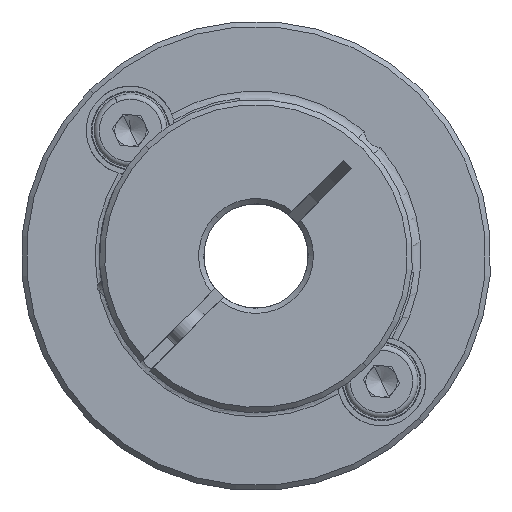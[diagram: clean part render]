
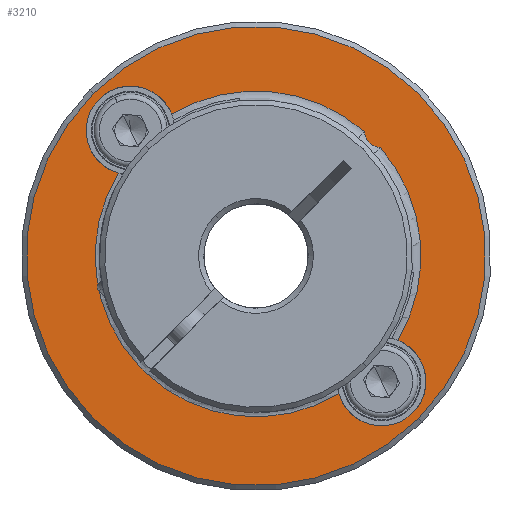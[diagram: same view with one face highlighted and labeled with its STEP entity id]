
A CAD part, front view. The second image highlights one B-rep face of the part: STEP entity #3210.
In plain terms, the highlighted planar face has unit normal (0, -1, 0).
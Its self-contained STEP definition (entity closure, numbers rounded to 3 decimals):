
#21 = EDGE_CURVE ( 'NONE', #11174, #11022, #2576, .T. ) ;
#103 = EDGE_LOOP ( 'NONE', ( #11061, #5456 ) ) ;
#334 = AXIS2_PLACEMENT_3D ( 'NONE', #4567, #1843, #10335 ) ;
#338 = CARTESIAN_POINT ( 'NONE',  ( -2.531, 21.413, 43.914 ) ) ;
#385 = DIRECTION ( 'NONE',  ( -0.707, 0., 0.707 ) ) ;
#456 = DIRECTION ( 'NONE',  ( 0.145, 0., -0.989 ) ) ;
#487 = CARTESIAN_POINT ( 'NONE',  ( -2.531, 21.413, 43.914 ) ) ;
#644 = EDGE_CURVE ( 'NONE', #5098, #4097, #11838, .T. ) ;
#708 = EDGE_CURVE ( 'NONE', #10522, #9140, #6889, .T. ) ;
#854 = EDGE_CURVE ( 'NONE', #11022, #11174, #9558, .T. ) ;
#855 = CIRCLE ( 'NONE', #3099, 4.25 ) ;
#889 = ORIENTED_EDGE ( 'NONE', *, *, #3291, .T. ) ;
#915 = AXIS2_PLACEMENT_3D ( 'NONE', #12221, #8450, #7405 ) ;
#935 = CIRCLE ( 'NONE', #8179, 15.8 ) ;
#951 = DIRECTION ( 'NONE',  ( -0.707, 0., 0.707 ) ) ;
#1104 = CARTESIAN_POINT ( 'NONE',  ( 7.843, 21.413, 55.831 ) ) ;
#1294 = EDGE_CURVE ( 'NONE', #10822, #5098, #10043, .T. ) ;
#1309 = CIRCLE ( 'NONE', #11026, 15.4 ) ;
#1344 = CARTESIAN_POINT ( 'NONE',  ( -18.087, 21.413, 59.47 ) ) ;
#1396 = VERTEX_POINT ( 'NONE', #1104 ) ;
#1843 = DIRECTION ( 'NONE',  ( 0., 1., 0. ) ) ;
#1956 = VERTEX_POINT ( 'NONE', #6802 ) ;
#2047 = EDGE_CURVE ( 'NONE', #9140, #10822, #1309, .T. ) ;
#2172 = EDGE_CURVE ( 'NONE', #1956, #9495, #855, .T. ) ;
#2213 = CARTESIAN_POINT ( 'NONE',  ( 5.406, 21.413, 30.717 ) ) ;
#2557 = AXIS2_PLACEMENT_3D ( 'NONE', #3477, #6484, #5400 ) ;
#2576 = CIRCLE ( 'NONE', #4983, 22. ) ;
#2823 = DIRECTION ( 'NONE',  ( 0., 1., 0. ) ) ;
#2953 = ORIENTED_EDGE ( 'NONE', *, *, #1294, .T. ) ;
#3034 = DIRECTION ( 'NONE',  ( 0., -1., 0. ) ) ;
#3099 = AXIS2_PLACEMENT_3D ( 'NONE', #9564, #3900, #11471 ) ;
#3129 = CARTESIAN_POINT ( 'NONE',  ( -13.145, 21.413, 32.757 ) ) ;
#3210 = ADVANCED_FACE ( 'NONE', ( #5202, #3856 ), #10811, .T. ) ;
#3291 = EDGE_CURVE ( 'NONE', #10749, #10522, #6389, .T. ) ;
#3345 = AXIS2_PLACEMENT_3D ( 'NONE', #6803, #3918, #7793 ) ;
#3477 = CARTESIAN_POINT ( 'NONE',  ( -2.531, 21.413, 43.914 ) ) ;
#3521 = EDGE_CURVE ( 'NONE', #4097, #1956, #11782, .T. ) ;
#3564 = ORIENTED_EDGE ( 'NONE', *, *, #5113, .T. ) ;
#3758 = CARTESIAN_POINT ( 'NONE',  ( -13.688, 21.413, 33.299 ) ) ;
#3856 = FACE_OUTER_BOUND ( 'NONE', #103, .T. ) ;
#3900 = DIRECTION ( 'NONE',  ( 0., 1., 0. ) ) ;
#3904 = CARTESIAN_POINT ( 'NONE',  ( -2.531, 21.413, 43.914 ) ) ;
#3918 = DIRECTION ( 'NONE',  ( 0., -1., 0. ) ) ;
#4097 = VERTEX_POINT ( 'NONE', #12347 ) ;
#4567 = CARTESIAN_POINT ( 'NONE',  ( 9.49, 21.413, 31.893 ) ) ;
#4617 = AXIS2_PLACEMENT_3D ( 'NONE', #10006, #5374, #456 ) ;
#4718 = ORIENTED_EDGE ( 'NONE', *, *, #2047, .T. ) ;
#4983 = AXIS2_PLACEMENT_3D ( 'NONE', #487, #5282, #6184 ) ;
#5098 = VERTEX_POINT ( 'NONE', #5222 ) ;
#5113 = EDGE_CURVE ( 'NONE', #9495, #1396, #935, .T. ) ;
#5170 = CARTESIAN_POINT ( 'NONE',  ( -2.531, 21.413, 43.914 ) ) ;
#5202 = FACE_BOUND ( 'NONE', #6800, .T. ) ;
#5222 = CARTESIAN_POINT ( 'NONE',  ( -13.688, 21.413, 33.299 ) ) ;
#5282 = DIRECTION ( 'NONE',  ( 0., -1., 0. ) ) ;
#5374 = DIRECTION ( 'NONE',  ( 0., -1., 0. ) ) ;
#5400 = DIRECTION ( 'NONE',  ( -0.707, 0., 0.707 ) ) ;
#5456 = ORIENTED_EDGE ( 'NONE', *, *, #854, .T. ) ;
#5640 = CARTESIAN_POINT ( 'NONE',  ( -13.464, 21.413, 33.162 ) ) ;
#5665 = CARTESIAN_POINT ( 'NONE',  ( 12.495, 21.413, 28.888 ) ) ;
#6184 = DIRECTION ( 'NONE',  ( -0.707, 0., 0.707 ) ) ;
#6389 = CIRCLE ( 'NONE', #11685, 4.25 ) ;
#6472 = ORIENTED_EDGE ( 'NONE', *, *, #708, .T. ) ;
#6484 = DIRECTION ( 'NONE',  ( 0., 1., 0. ) ) ;
#6497 = DIRECTION ( 'NONE',  ( -0.707, 0., 0.707 ) ) ;
#6543 = CARTESIAN_POINT ( 'NONE',  ( -2.531, 21.413, 43.914 ) ) ;
#6685 = CARTESIAN_POINT ( 'NONE',  ( 11.054, 21.413, 35.845 ) ) ;
#6800 = EDGE_LOOP ( 'NONE', ( #7677, #8124, #889, #6472, #4718, #2953, #10093, #9944, #8752, #3564 ) ) ;
#6802 = CARTESIAN_POINT ( 'NONE',  ( -17.557, 21.413, 58.94 ) ) ;
#6803 = CARTESIAN_POINT ( 'NONE',  ( 9.49, 21.413, 55.935 ) ) ;
#6889 = CIRCLE ( 'NONE', #334, 4.25 ) ;
#6946 = VERTEX_POINT ( 'NONE', #8911 ) ;
#7167 = DIRECTION ( 'NONE',  ( -0.707, 0., 0.707 ) ) ;
#7374 = CIRCLE ( 'NONE', #2557, 15.8 ) ;
#7405 = DIRECTION ( 'NONE',  ( -0.707, 0., 0.707 ) ) ;
#7540 = CIRCLE ( 'NONE', #3345, 1.65 ) ;
#7677 = ORIENTED_EDGE ( 'NONE', *, *, #10694, .T. ) ;
#7793 = DIRECTION ( 'NONE',  ( 1., 0., 0. ) ) ;
#8006 = DIRECTION ( 'NONE',  ( -0.707, 0., 0.707 ) ) ;
#8080 = CARTESIAN_POINT ( 'NONE',  ( 9.49, 21.413, 31.893 ) ) ;
#8111 = AXIS2_PLACEMENT_3D ( 'NONE', #3904, #3034, #951 ) ;
#8124 = ORIENTED_EDGE ( 'NONE', *, *, #12408, .T. ) ;
#8179 = AXIS2_PLACEMENT_3D ( 'NONE', #5170, #10047, #385 ) ;
#8450 = DIRECTION ( 'NONE',  ( 0., 1., 0. ) ) ;
#8455 = CARTESIAN_POINT ( 'NONE',  ( -10.6, 21.413, 57.498 ) ) ;
#8752 = ORIENTED_EDGE ( 'NONE', *, *, #2172, .T. ) ;
#8911 = CARTESIAN_POINT ( 'NONE',  ( 9.386, 21.413, 54.288 ) ) ;
#9140 = VERTEX_POINT ( 'NONE', #2213 ) ;
#9401 = CARTESIAN_POINT ( 'NONE',  ( -13.145, 21.413, 32.757 ) ) ;
#9495 = VERTEX_POINT ( 'NONE', #8455 ) ;
#9558 = CIRCLE ( 'NONE', #8111, 22. ) ;
#9564 = CARTESIAN_POINT ( 'NONE',  ( -14.552, 21.413, 55.935 ) ) ;
#9944 = ORIENTED_EDGE ( 'NONE', *, *, #3521, .T. ) ;
#10006 = CARTESIAN_POINT ( 'NONE',  ( 9.49, 21.413, 55.935 ) ) ;
#10043 = B_SPLINE_CURVE_WITH_KNOTS ( 'NONE', 3,
 ( #9401, #11368, #5640, #3758 ),
 .UNSPECIFIED., .F., .F.,
 ( 4, 4 ),
 ( 0., 1. ),
 .UNSPECIFIED. ) ;
#10047 = DIRECTION ( 'NONE',  ( 0., 1., 0. ) ) ;
#10093 = ORIENTED_EDGE ( 'NONE', *, *, #644, .T. ) ;
#10335 = DIRECTION ( 'NONE',  ( -0.707, 0., 0.707 ) ) ;
#10522 = VERTEX_POINT ( 'NONE', #5665 ) ;
#10694 = EDGE_CURVE ( 'NONE', #1396, #6946, #7540, .T. ) ;
#10749 = VERTEX_POINT ( 'NONE', #6685 ) ;
#10811 = PLANE ( 'NONE',  #4617 ) ;
#10822 = VERTEX_POINT ( 'NONE', #3129 ) ;
#10889 = DIRECTION ( 'NONE',  ( 0., 1., 0. ) ) ;
#11022 = VERTEX_POINT ( 'NONE', #1344 ) ;
#11026 = AXIS2_PLACEMENT_3D ( 'NONE', #338, #11818, #8006 ) ;
#11061 = ORIENTED_EDGE ( 'NONE', *, *, #21, .T. ) ;
#11163 = AXIS2_PLACEMENT_3D ( 'NONE', #6543, #2823, #6497 ) ;
#11174 = VERTEX_POINT ( 'NONE', #12145 ) ;
#11368 = CARTESIAN_POINT ( 'NONE',  ( -13.283, 21.413, 32.981 ) ) ;
#11471 = DIRECTION ( 'NONE',  ( -0.707, 0., 0.707 ) ) ;
#11685 = AXIS2_PLACEMENT_3D ( 'NONE', #8080, #10889, #7167 ) ;
#11782 = CIRCLE ( 'NONE', #915, 4.25 ) ;
#11818 = DIRECTION ( 'NONE',  ( 0., 1., 0. ) ) ;
#11838 = CIRCLE ( 'NONE', #11163, 15.4 ) ;
#12145 = CARTESIAN_POINT ( 'NONE',  ( 13.026, 21.413, 28.358 ) ) ;
#12221 = CARTESIAN_POINT ( 'NONE',  ( -14.552, 21.413, 55.935 ) ) ;
#12347 = CARTESIAN_POINT ( 'NONE',  ( -15.728, 21.413, 51.851 ) ) ;
#12408 = EDGE_CURVE ( 'NONE', #6946, #10749, #7374, .T. ) ;
